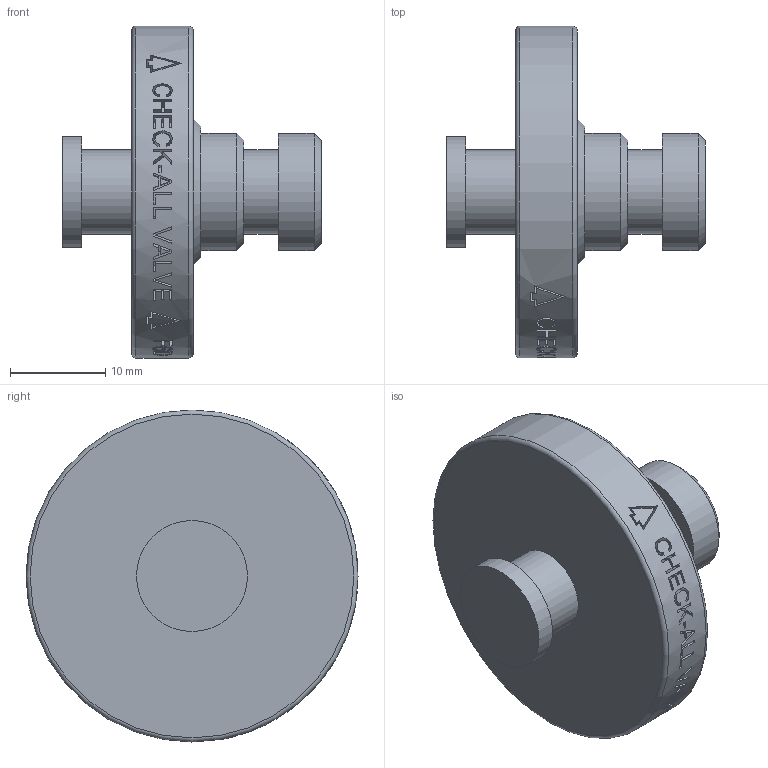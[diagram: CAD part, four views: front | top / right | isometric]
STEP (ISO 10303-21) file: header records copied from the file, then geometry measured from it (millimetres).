
FILE_DESCRIPTION( ( 'Unknown' ), '1' );
FILE_NAME( 'Y:/ENGR/3D Solid Edge Models/F6/F6 STEP/F6D.stp', 'Unknown', ( 'Unknown' ), ( 'Unknown' ), 'PSStep 14.0', 'Unknown', ' ' );
FILE_SCHEMA( ( 'AUTOMOTIVE_DESIGN { 1 0 10303 214 1 1 1 1 }' ) );
Length unit declared in the file: millimetre
Products named in the file (1): 1
Bounding box: 27.2 x 34.92 x 34.92 mm (x, y, z)
Volume: 8112.9 mm3; surface area: 3718.8 mm2
Topology: 1 solids, 1 shells, 204 faces, 509 edges, 338 vertices
Faces by surface type: plane 121, bspline 47, cylinder 31, cone 3, torus 2
Full cylindrical faces by diameter (mm): 8.839 x2, 11.684 x1, 12.319 x2, 34.925 x1
Entity records: 9186 total; most frequent: CARTESIAN_POINT 3778, ORIENTED_EDGE 994, EDGE_CURVE 497, B_SPLINE_CURVE_WITH_KNOTS 479, DIRECTION 352, VERTEX_POINT 338, EDGE_LOOP 247, FACE_OUTER_BOUND 213
